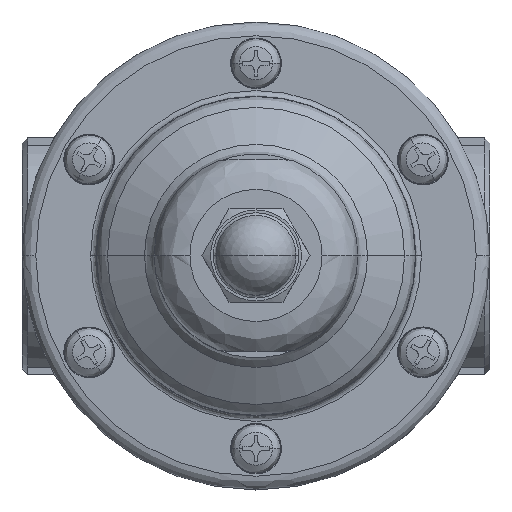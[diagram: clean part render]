
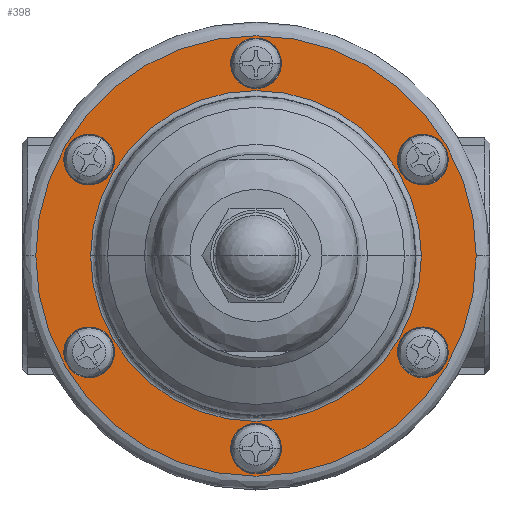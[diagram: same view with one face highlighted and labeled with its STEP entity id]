
A CAD part, top view. The second image highlights one B-rep face of the part: STEP entity #398.
In plain terms, the highlighted planar face has unit normal (0, 0, 1).
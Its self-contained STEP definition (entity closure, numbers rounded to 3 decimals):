
#398=ADVANCED_FACE('',(#950,#951,#952,#953,#954,#955,#956,#957),#949,.F.);
#949=PLANE('',#5376);
#950=FACE_OUTER_BOUND('',#5377,.T.);
#951=FACE_BOUND('',#5378,.T.);
#952=FACE_BOUND('',#5379,.T.);
#953=FACE_BOUND('',#5380,.T.);
#954=FACE_BOUND('',#5381,.T.);
#955=FACE_BOUND('',#5382,.T.);
#956=FACE_BOUND('',#5383,.T.);
#957=FACE_BOUND('',#5384,.T.);
#5373=CARTESIAN_POINT('',(90.,-79.282,1.5));
#5374=DIRECTION('',(0.,0.,-1.));
#5375=DIRECTION('',(-1.,0.,0.));
#5376=AXIS2_PLACEMENT_3D('',#5373,#5374,#5375);
#5377=EDGE_LOOP('',(#9091,#9092));
#5378=EDGE_LOOP('',(#9093,#9094));
#5379=EDGE_LOOP('',(#9095,#9096));
#5380=EDGE_LOOP('',(#9097,#9098));
#5381=EDGE_LOOP('',(#9099,#9100));
#5382=EDGE_LOOP('',(#9101,#9102));
#5383=EDGE_LOOP('',(#9103,#9104));
#5384=EDGE_LOOP('',(#9105,#9106));
#9091=ORIENTED_EDGE('',*,*,#11338,.F.);
#9092=ORIENTED_EDGE('',*,*,#11339,.F.);
#9093=ORIENTED_EDGE('',*,*,#11340,.T.);
#9094=ORIENTED_EDGE('',*,*,#11341,.T.);
#9095=ORIENTED_EDGE('',*,*,#11342,.T.);
#9096=ORIENTED_EDGE('',*,*,#11343,.T.);
#9097=ORIENTED_EDGE('',*,*,#11344,.T.);
#9098=ORIENTED_EDGE('',*,*,#11345,.T.);
#9099=ORIENTED_EDGE('',*,*,#11346,.T.);
#9100=ORIENTED_EDGE('',*,*,#11347,.T.);
#9101=ORIENTED_EDGE('',*,*,#11348,.T.);
#9102=ORIENTED_EDGE('',*,*,#11349,.T.);
#9103=ORIENTED_EDGE('',*,*,#11350,.T.);
#9104=ORIENTED_EDGE('',*,*,#11351,.T.);
#9105=ORIENTED_EDGE('',*,*,#11352,.T.);
#9106=ORIENTED_EDGE('',*,*,#11353,.T.);
#11338=EDGE_CURVE('',#12789,#12790,#12791,.T.);
#11339=EDGE_CURVE('',#12790,#12789,#12797,.T.);
#11340=EDGE_CURVE('',#12803,#12804,#12805,.T.);
#11341=EDGE_CURVE('',#12804,#12803,#12811,.T.);
#11342=EDGE_CURVE('',#12817,#12818,#12819,.T.);
#11343=EDGE_CURVE('',#12818,#12817,#12825,.T.);
#11344=EDGE_CURVE('',#12831,#12832,#12833,.T.);
#11345=EDGE_CURVE('',#12832,#12831,#12839,.T.);
#11346=EDGE_CURVE('',#12845,#12846,#12847,.T.);
#11347=EDGE_CURVE('',#12846,#12845,#12853,.T.);
#11348=EDGE_CURVE('',#12859,#12860,#12861,.T.);
#11349=EDGE_CURVE('',#12860,#12859,#12867,.T.);
#11350=EDGE_CURVE('',#12873,#12874,#12875,.T.);
#11351=EDGE_CURVE('',#12874,#12873,#12881,.T.);
#11352=EDGE_CURVE('',#12887,#12888,#12889,.T.);
#11353=EDGE_CURVE('',#12888,#12887,#12895,.T.);
#12789=VERTEX_POINT('',#20175);
#12790=VERTEX_POINT('',#20176);
#12791=CIRCLE('',#20180,40.);
#12797=CIRCLE('',#20184,40.);
#12803=VERTEX_POINT('',#20185);
#12804=VERTEX_POINT('',#20186);
#12805=CIRCLE('',#20190,2.75);
#12811=CIRCLE('',#20194,2.75);
#12817=VERTEX_POINT('',#20195);
#12818=VERTEX_POINT('',#20196);
#12819=CIRCLE('',#20200,2.75);
#12825=CIRCLE('',#20204,2.75);
#12831=VERTEX_POINT('',#20205);
#12832=VERTEX_POINT('',#20206);
#12833=CIRCLE('',#20210,2.75);
#12839=CIRCLE('',#20214,2.75);
#12845=VERTEX_POINT('',#20215);
#12846=VERTEX_POINT('',#20216);
#12847=CIRCLE('',#20220,2.75);
#12853=CIRCLE('',#20224,2.75);
#12859=VERTEX_POINT('',#20225);
#12860=VERTEX_POINT('',#20226);
#12861=CIRCLE('',#20230,2.75);
#12867=CIRCLE('',#20234,2.75);
#12873=VERTEX_POINT('',#20235);
#12874=VERTEX_POINT('',#20236);
#12875=CIRCLE('',#20240,2.75);
#12881=CIRCLE('',#20244,2.75);
#12887=VERTEX_POINT('',#20245);
#12888=VERTEX_POINT('',#20246);
#12889=CIRCLE('',#20250,30.042);
#12895=CIRCLE('',#20254,30.042);
#20175=CARTESIAN_POINT('',(40.,0.,1.5));
#20176=CARTESIAN_POINT('',(-40.,0.,1.5));
#20177=CARTESIAN_POINT('',(0.,0.,1.5));
#20178=DIRECTION('',(0.,0.,-1.));
#20179=DIRECTION('',(-1.,0.,0.));
#20180=AXIS2_PLACEMENT_3D('',#20177,#20178,#20179);
#20181=CARTESIAN_POINT('',(0.,0.,1.5));
#20182=DIRECTION('',(0.,0.,-1.));
#20183=DIRECTION('',(-1.,0.,0.));
#20184=AXIS2_PLACEMENT_3D('',#20181,#20182,#20183);
#20185=CARTESIAN_POINT('',(-27.777,-17.625,1.5));
#20186=CARTESIAN_POINT('',(-33.277,-17.625,1.5));
#20187=CARTESIAN_POINT('',(-30.527,-17.625,1.5));
#20188=DIRECTION('',(0.,0.,-1.));
#20189=DIRECTION('',(1.,0.,0.));
#20190=AXIS2_PLACEMENT_3D('',#20187,#20188,#20189);
#20191=CARTESIAN_POINT('',(-30.527,-17.625,1.5));
#20192=DIRECTION('',(0.,0.,-1.));
#20193=DIRECTION('',(1.,0.,0.));
#20194=AXIS2_PLACEMENT_3D('',#20191,#20192,#20193);
#20195=CARTESIAN_POINT('',(-27.777,17.625,1.5));
#20196=CARTESIAN_POINT('',(-33.277,17.625,1.5));
#20197=CARTESIAN_POINT('',(-30.527,17.625,1.5));
#20198=DIRECTION('',(0.,0.,-1.));
#20199=DIRECTION('',(1.,0.,0.));
#20200=AXIS2_PLACEMENT_3D('',#20197,#20198,#20199);
#20201=CARTESIAN_POINT('',(-30.527,17.625,1.5));
#20202=DIRECTION('',(0.,0.,-1.));
#20203=DIRECTION('',(1.,0.,0.));
#20204=AXIS2_PLACEMENT_3D('',#20201,#20202,#20203);
#20205=CARTESIAN_POINT('',(2.75,35.25,1.5));
#20206=CARTESIAN_POINT('',(-2.75,35.25,1.5));
#20207=CARTESIAN_POINT('',(0.,35.25,1.5));
#20208=DIRECTION('',(0.,0.,-1.));
#20209=DIRECTION('',(1.,0.,0.));
#20210=AXIS2_PLACEMENT_3D('',#20207,#20208,#20209);
#20211=CARTESIAN_POINT('',(0.,35.25,1.5));
#20212=DIRECTION('',(0.,0.,-1.));
#20213=DIRECTION('',(1.,0.,0.));
#20214=AXIS2_PLACEMENT_3D('',#20211,#20212,#20213);
#20215=CARTESIAN_POINT('',(33.277,17.625,1.5));
#20216=CARTESIAN_POINT('',(27.777,17.625,1.5));
#20217=CARTESIAN_POINT('',(30.527,17.625,1.5));
#20218=DIRECTION('',(0.,0.,-1.));
#20219=DIRECTION('',(1.,0.,0.));
#20220=AXIS2_PLACEMENT_3D('',#20217,#20218,#20219);
#20221=CARTESIAN_POINT('',(30.527,17.625,1.5));
#20222=DIRECTION('',(0.,0.,-1.));
#20223=DIRECTION('',(1.,0.,0.));
#20224=AXIS2_PLACEMENT_3D('',#20221,#20222,#20223);
#20225=CARTESIAN_POINT('',(33.277,-17.625,1.5));
#20226=CARTESIAN_POINT('',(27.777,-17.625,1.5));
#20227=CARTESIAN_POINT('',(30.527,-17.625,1.5));
#20228=DIRECTION('',(0.,0.,-1.));
#20229=DIRECTION('',(1.,0.,0.));
#20230=AXIS2_PLACEMENT_3D('',#20227,#20228,#20229);
#20231=CARTESIAN_POINT('',(30.527,-17.625,1.5));
#20232=DIRECTION('',(0.,0.,-1.));
#20233=DIRECTION('',(1.,0.,0.));
#20234=AXIS2_PLACEMENT_3D('',#20231,#20232,#20233);
#20235=CARTESIAN_POINT('',(2.75,-35.25,1.5));
#20236=CARTESIAN_POINT('',(-2.75,-35.25,1.5));
#20237=CARTESIAN_POINT('',(0.,-35.25,1.5));
#20238=DIRECTION('',(0.,0.,-1.));
#20239=DIRECTION('',(1.,0.,0.));
#20240=AXIS2_PLACEMENT_3D('',#20237,#20238,#20239);
#20241=CARTESIAN_POINT('',(0.,-35.25,1.5));
#20242=DIRECTION('',(0.,0.,-1.));
#20243=DIRECTION('',(1.,0.,0.));
#20244=AXIS2_PLACEMENT_3D('',#20241,#20242,#20243);
#20245=CARTESIAN_POINT('',(-30.042,0.,1.5));
#20246=CARTESIAN_POINT('',(30.042,0.,1.5));
#20247=CARTESIAN_POINT('',(0.,0.,1.5));
#20248=DIRECTION('',(0.,0.,-1.));
#20249=DIRECTION('',(-1.,0.,0.));
#20250=AXIS2_PLACEMENT_3D('',#20247,#20248,#20249);
#20251=CARTESIAN_POINT('',(0.,0.,1.5));
#20252=DIRECTION('',(0.,0.,-1.));
#20253=DIRECTION('',(-1.,0.,0.));
#20254=AXIS2_PLACEMENT_3D('',#20251,#20252,#20253);
